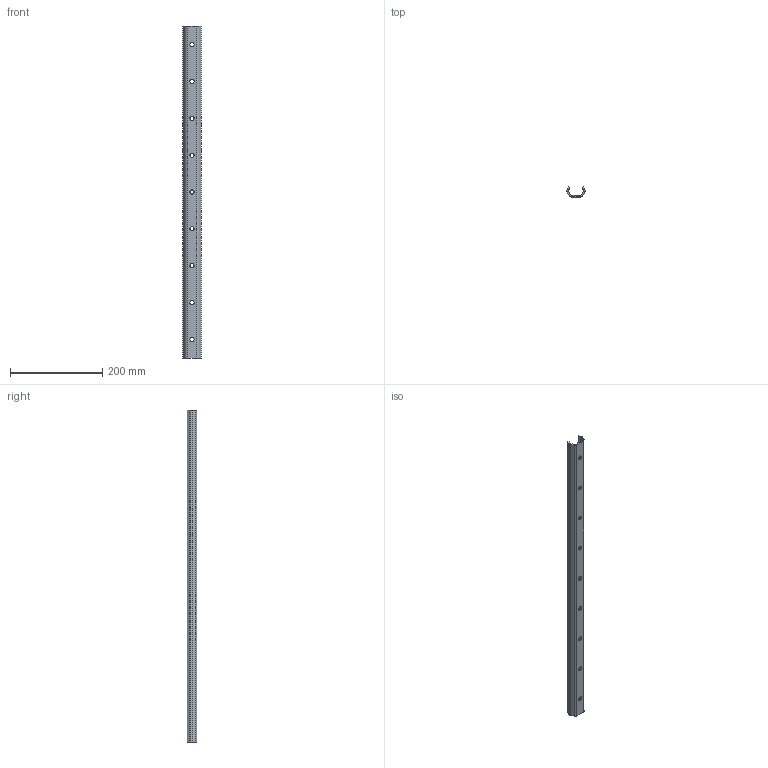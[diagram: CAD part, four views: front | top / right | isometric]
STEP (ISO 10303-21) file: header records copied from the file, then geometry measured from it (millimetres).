
FILE_DESCRIPTION(('STEP AP214'),'1');
FILE_NAME('rail_tex40-720.stp','2019-03-08T08:32:56',('TraceParts'),('TraceParts S.A.'),'Spatial InterOp 3D',' ',' ');
FILE_SCHEMA(('automotive_design'));
Length unit declared in the file: millimetre
Products named in the file (1): rail_tex40-720
Bounding box: 39.53 x 21 x 720 mm (x, y, z)
Volume: 140764.8 mm3; surface area: 99454.2 mm2
Topology: 1 solids, 1 shells, 192 faces, 501 edges, 334 vertices
Faces by surface type: plane 133, cylinder 30, bspline 29
Entity records: 11900 total; most frequent: CARTESIAN_POINT 5709, ORIENTED_EDGE 1002, DIRECTION 831, EDGE_CURVE 501, LINE 383, VECTOR 383, VERTEX_POINT 334, EDGE_LOOP 233
